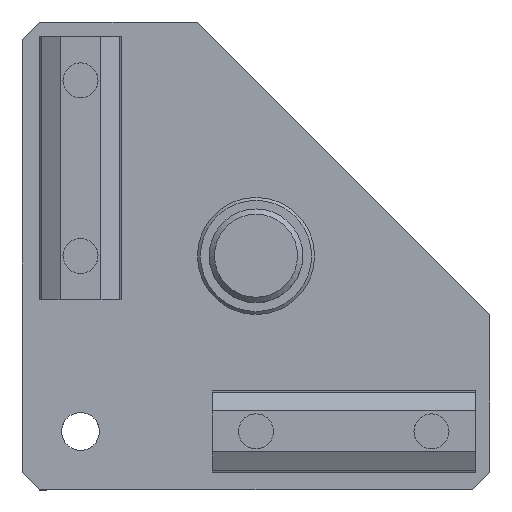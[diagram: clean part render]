
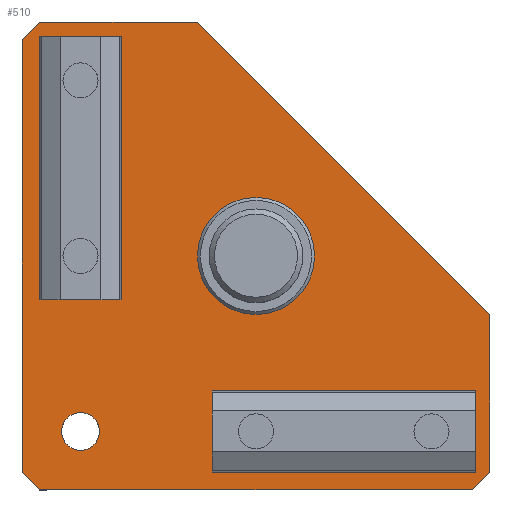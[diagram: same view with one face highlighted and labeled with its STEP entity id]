
A CAD part, top view. The second image highlights one B-rep face of the part: STEP entity #510.
In plain terms, the highlighted planar face has unit normal (0, 0, 1) as drawn and (0, 0, -1) by its records, which use the part's own axes.
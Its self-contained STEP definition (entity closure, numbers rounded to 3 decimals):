
#510=ADVANCED_FACE('',(#935,#936,#937,#938,#939,#940,#941),#942,.F.);
#935=FACE_OUTER_BOUND('',#1486,.T.);
#936=FACE_BOUND('',#1487,.T.);
#937=FACE_BOUND('',#1488,.T.);
#938=FACE_BOUND('',#1489,.T.);
#939=FACE_BOUND('',#1490,.T.);
#940=FACE_BOUND('',#1491,.T.);
#941=FACE_BOUND('',#1492,.T.);
#942=PLANE('',#1493);
#1486=EDGE_LOOP('',(#2015,#2016,#2017,#2018,#2019,#2020,#2021,#2022));
#1487=EDGE_LOOP('',(#2023));
#1488=EDGE_LOOP('',(#2024));
#1489=EDGE_LOOP('',(#2025));
#1490=EDGE_LOOP('',(#2026));
#1491=EDGE_LOOP('',(#2027));
#1492=EDGE_LOOP('',(#2028));
#1493=AXIS2_PLACEMENT_3D('',#2029,#2030,#2031);
#2015=ORIENTED_EDGE('',*,*,#3164,.F.);
#2016=ORIENTED_EDGE('',*,*,#3165,.F.);
#2017=ORIENTED_EDGE('',*,*,#3166,.F.);
#2018=ORIENTED_EDGE('',*,*,#3167,.F.);
#2019=ORIENTED_EDGE('',*,*,#3168,.F.);
#2020=ORIENTED_EDGE('',*,*,#3169,.F.);
#2021=ORIENTED_EDGE('',*,*,#3170,.F.);
#2022=ORIENTED_EDGE('',*,*,#3171,.F.);
#2023=ORIENTED_EDGE('',*,*,#3162,.T.);
#2024=ORIENTED_EDGE('',*,*,#3172,.F.);
#2025=ORIENTED_EDGE('',*,*,#3173,.F.);
#2026=ORIENTED_EDGE('',*,*,#3174,.F.);
#2027=ORIENTED_EDGE('',*,*,#3175,.F.);
#2028=ORIENTED_EDGE('',*,*,#3176,.F.);
#2029=CARTESIAN_POINT('',(189.639,-429.486,-217.539));
#2030=DIRECTION('',(0.0,0.0,1.0));
#2031=DIRECTION('',(1.0,0.0,0.0));
#3162=EDGE_CURVE('',#3588,#3588,#3589,.T.);
#3164=EDGE_CURVE('',#3591,#3592,#3593,.T.);
#3165=EDGE_CURVE('',#3594,#3591,#3595,.T.);
#3166=EDGE_CURVE('',#3596,#3594,#3597,.T.);
#3167=EDGE_CURVE('',#3598,#3596,#3599,.T.);
#3168=EDGE_CURVE('',#3600,#3598,#3601,.T.);
#3169=EDGE_CURVE('',#3602,#3600,#3603,.T.);
#3170=EDGE_CURVE('',#3604,#3602,#3605,.T.);
#3171=EDGE_CURVE('',#3592,#3604,#3606,.T.);
#3172=EDGE_CURVE('',#3607,#3607,#3608,.T.);
#3173=EDGE_CURVE('',#3609,#3609,#3610,.T.);
#3174=EDGE_CURVE('',#3611,#3611,#3612,.T.);
#3175=EDGE_CURVE('',#3613,#3613,#3614,.T.);
#3176=EDGE_CURVE('',#3615,#3615,#3616,.T.);
#3588=VERTEX_POINT('',#4218);
#3589=CIRCLE('',#4219,10.0);
#3591=VERTEX_POINT('',#4221);
#3592=VERTEX_POINT('',#4222);
#3593=LINE('',#4223,#4224);
#3594=VERTEX_POINT('',#4225);
#3595=LINE('',#4226,#4227);
#3596=VERTEX_POINT('',#4228);
#3597=LINE('',#4229,#4230);
#3598=VERTEX_POINT('',#4231);
#3599=LINE('',#4232,#4233);
#3600=VERTEX_POINT('',#4234);
#3601=LINE('',#4235,#4236);
#3602=VERTEX_POINT('',#4237);
#3603=LINE('',#4238,#4239);
#3604=VERTEX_POINT('',#4240);
#3605=LINE('',#4241,#4242);
#3606=LINE('',#4243,#4244);
#3607=VERTEX_POINT('',#4245);
#3608=CIRCLE('',#4246,3.25);
#3609=VERTEX_POINT('',#4247);
#3610=CIRCLE('',#4248,3.25);
#3611=VERTEX_POINT('',#4249);
#3612=CIRCLE('',#4250,3.25);
#3613=VERTEX_POINT('',#4251);
#3614=CIRCLE('',#4252,3.25);
#3615=VERTEX_POINT('',#4253);
#3616=CIRCLE('',#4254,3.25);
#4218=CARTESIAN_POINT('',(220.508,-405.478,-217.539));
#4219=AXIS2_PLACEMENT_3D('',#5266,#5267,#5268);
#4221=CARTESIAN_POINT('',(260.508,-432.478,-217.539));
#4222=CARTESIAN_POINT('',(260.508,-358.478,-217.539));
#4223=CARTESIAN_POINT('',(260.508,-432.478,-217.539));
#4224=VECTOR('',#5269,1.0);
#4225=CARTESIAN_POINT('',(257.508,-435.478,-217.539));
#4226=CARTESIAN_POINT('',(257.508,-435.478,-217.539));
#4227=VECTOR('',#5270,1.0);
#4228=CARTESIAN_POINT('',(183.508,-435.478,-217.539));
#4229=CARTESIAN_POINT('',(183.508,-435.478,-217.539));
#4230=VECTOR('',#5271,1.0);
#4231=CARTESIAN_POINT('',(180.508,-432.478,-217.539));
#4232=CARTESIAN_POINT('',(180.508,-432.478,-217.539));
#4233=VECTOR('',#5272,1.0);
#4234=CARTESIAN_POINT('',(180.508,-405.478,-217.539));
#4235=CARTESIAN_POINT('',(180.508,-405.478,-217.539));
#4236=VECTOR('',#5273,1.0);
#4237=CARTESIAN_POINT('',(230.508,-355.478,-217.539));
#4238=CARTESIAN_POINT('',(230.508,-355.478,-217.539));
#4239=VECTOR('',#5274,1.0);
#4240=CARTESIAN_POINT('',(257.508,-355.478,-217.539));
#4241=CARTESIAN_POINT('',(257.508,-355.478,-217.539));
#4242=VECTOR('',#5275,1.0);
#4243=CARTESIAN_POINT('',(260.508,-358.478,-217.539));
#4244=VECTOR('',#5276,1.0);
#4245=CARTESIAN_POINT('',(217.258,-425.478,-217.539));
#4246=AXIS2_PLACEMENT_3D('',#5277,#5278,#5279);
#4247=CARTESIAN_POINT('',(247.258,-425.478,-217.539));
#4248=AXIS2_PLACEMENT_3D('',#5280,#5281,#5282);
#4249=CARTESIAN_POINT('',(247.258,-365.478,-217.539));
#4250=AXIS2_PLACEMENT_3D('',#5283,#5284,#5285);
#4251=CARTESIAN_POINT('',(247.258,-395.478,-217.539));
#4252=AXIS2_PLACEMENT_3D('',#5286,#5287,#5288);
#4253=CARTESIAN_POINT('',(187.258,-425.478,-217.539));
#4254=AXIS2_PLACEMENT_3D('',#5289,#5290,#5291);
#5266=CARTESIAN_POINT('',(220.508,-395.478,-217.539));
#5267=DIRECTION('',(0.0,0.,1.0));
#5268=DIRECTION('',(0.0,-1.0,0.));
#5269=DIRECTION('',(0.0,1.0,0.0));
#5270=DIRECTION('',(0.707,0.707,0.0));
#5271=DIRECTION('',(1.0,0.0,0.0));
#5272=DIRECTION('',(0.707,-0.707,0.0));
#5273=DIRECTION('',(0.0,-1.0,0.0));
#5274=DIRECTION('',(-0.707,-0.707,0.0));
#5275=DIRECTION('',(-1.0,0.0,0.0));
#5276=DIRECTION('',(-0.707,0.707,0.0));
#5277=CARTESIAN_POINT('',(220.508,-425.478,-217.539));
#5278=DIRECTION('',(0.0,0.0,-1.0));
#5279=DIRECTION('',(-1.0,0.0,0.0));
#5280=CARTESIAN_POINT('',(250.508,-425.478,-217.539));
#5281=DIRECTION('',(0.0,0.0,-1.0));
#5282=DIRECTION('',(-1.0,0.0,0.0));
#5283=CARTESIAN_POINT('',(250.508,-365.478,-217.539));
#5284=DIRECTION('',(0.0,0.0,-1.0));
#5285=DIRECTION('',(-1.0,0.0,0.0));
#5286=CARTESIAN_POINT('',(250.508,-395.478,-217.539));
#5287=DIRECTION('',(0.0,0.0,-1.0));
#5288=DIRECTION('',(-1.0,0.0,0.0));
#5289=CARTESIAN_POINT('',(190.508,-425.478,-217.539));
#5290=DIRECTION('',(0.0,0.0,-1.0));
#5291=DIRECTION('',(-1.0,0.0,0.0));
